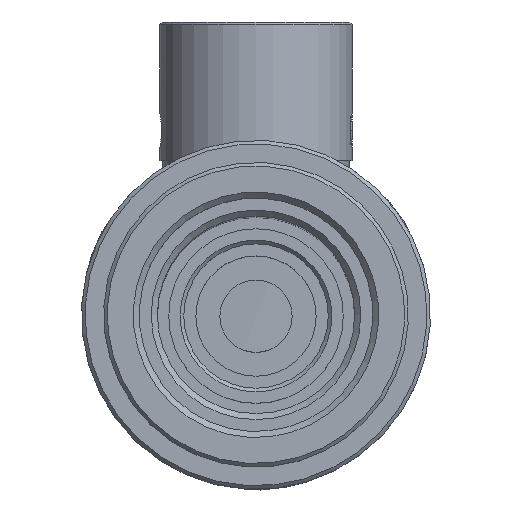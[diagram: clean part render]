
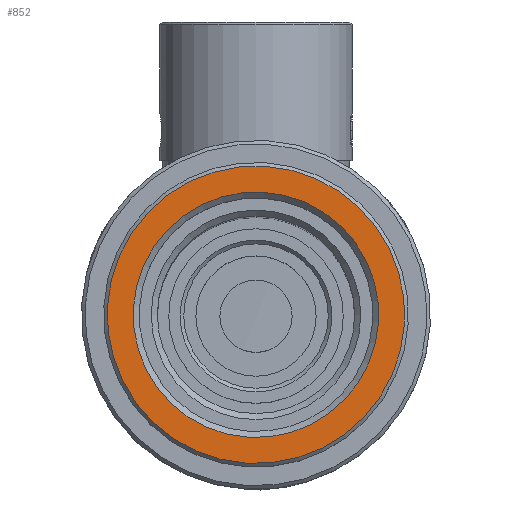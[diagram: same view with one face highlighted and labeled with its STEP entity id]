
A CAD part, top view. The second image highlights one B-rep face of the part: STEP entity #852.
In plain terms, the highlighted planar face has unit normal (0, 0, 1).
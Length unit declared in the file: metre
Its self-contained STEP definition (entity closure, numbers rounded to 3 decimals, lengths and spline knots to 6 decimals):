
#852=ADVANCED_FACE('NONE',(#1952,#1953),#1954,.F.);
#1952=FACE_BOUND('',#3284,.T.);
#1953=FACE_OUTER_BOUND('',#3285,.T.);
#1954=PLANE('',#3286);
#3284=EDGE_LOOP('',(#5615));
#3285=EDGE_LOOP('',(#5616));
#3286=AXIS2_PLACEMENT_3D('',#5617,#5618,#5619);
#5615=ORIENTED_EDGE('',*,*,#7357,.T.);
#5616=ORIENTED_EDGE('',*,*,#7358,.T.);
#5617=CARTESIAN_POINT('',(-0.00141,0.012581,0.0696));
#5618=DIRECTION('',(0.,0.,-1.0));
#5619=DIRECTION('',(-1.0,0.0,0.));
#7357=EDGE_CURVE('NONE',#8704,#8704,#8705,.T.);
#7358=EDGE_CURVE('NONE',#8706,#8706,#8707,.T.);
#8704=VERTEX_POINT('',#10734);
#8705=CIRCLE('',#10735,0.0102);
#8706=VERTEX_POINT('',#10736);
#8707=CIRCLE('',#10737,0.01236);
#10734=CARTESIAN_POINT('',(-0.010137,-0.001136,0.0696));
#10735=AXIS2_PLACEMENT_3D('',#12671,#12672,#12673);
#10736=CARTESIAN_POINT('',(-0.012283,-0.001376,0.0696));
#10737=AXIS2_PLACEMENT_3D('',#12674,#12675,#12676);
#12671=CARTESIAN_POINT('',(0.,0.,0.0696));
#12672=DIRECTION('',(0.,0.,-1.0));
#12673=DIRECTION('',(-0.994,-0.111,0.));
#12674=CARTESIAN_POINT('',(0.,0.,0.0696));
#12675=DIRECTION('',(0.,0.,1.0));
#12676=DIRECTION('',(-0.994,-0.111,0.));
